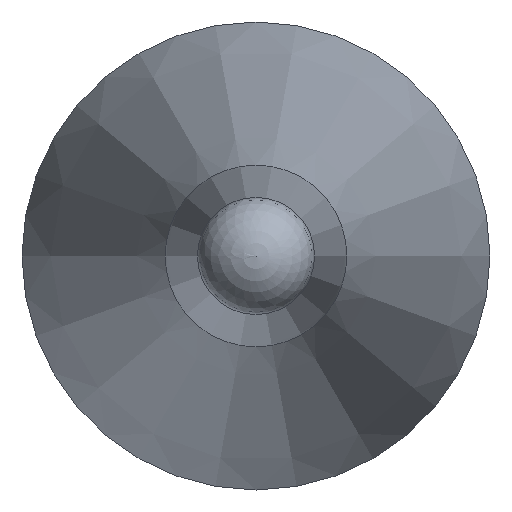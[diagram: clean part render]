
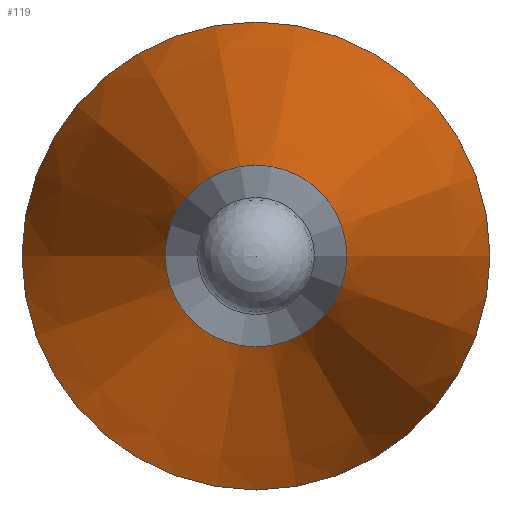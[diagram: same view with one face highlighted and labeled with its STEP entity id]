
A CAD part, left-side view. The second image highlights one B-rep face of the part: STEP entity #119.
In plain terms, the highlighted conical face has half-angle 12 degrees and reference radius 2 mm.
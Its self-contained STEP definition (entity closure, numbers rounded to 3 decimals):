
#97=CONICAL_SURFACE('',#194,2.,12.);
#106=FACE_BOUND('',#134,.T.);
#107=FACE_BOUND('',#135,.T.);
#119=ADVANCED_FACE('',(#106,#107),#97,.T.);
#134=EDGE_LOOP('',(#150));
#135=EDGE_LOOP('',(#151));
#150=ORIENTED_EDGE('',*,*,#172,.F.);
#151=ORIENTED_EDGE('',*,*,#173,.T.);
#164=VERTEX_POINT('',#249);
#165=VERTEX_POINT('',#252);
#172=EDGE_CURVE('',#164,#164,#180,.T.);
#173=EDGE_CURVE('',#165,#165,#181,.T.);
#180=CIRCLE('',#191,0.777);
#181=CIRCLE('',#193,2.);
#191=AXIS2_PLACEMENT_3D('',#248,#215,#216);
#193=AXIS2_PLACEMENT_3D('',#251,#219,#220);
#194=AXIS2_PLACEMENT_3D('',#253,#221,#222);
#215=DIRECTION('',(-1.,0.,0.));
#216=DIRECTION('',(0.,-1.,0.));
#219=DIRECTION('',(-1.,0.,0.));
#220=DIRECTION('',(0.,-1.,0.));
#221=DIRECTION('',(1.,0.,0.));
#222=DIRECTION('',(0.,1.,0.));
#248=CARTESIAN_POINT('',(7913.912,6103.288,0.));
#249=CARTESIAN_POINT('',(7913.912,6102.512,0.));
#251=CARTESIAN_POINT('',(7919.667,6103.288,0.));
#252=CARTESIAN_POINT('',(7919.667,6101.288,0.));
#253=CARTESIAN_POINT('',(7919.667,6103.288,0.));
